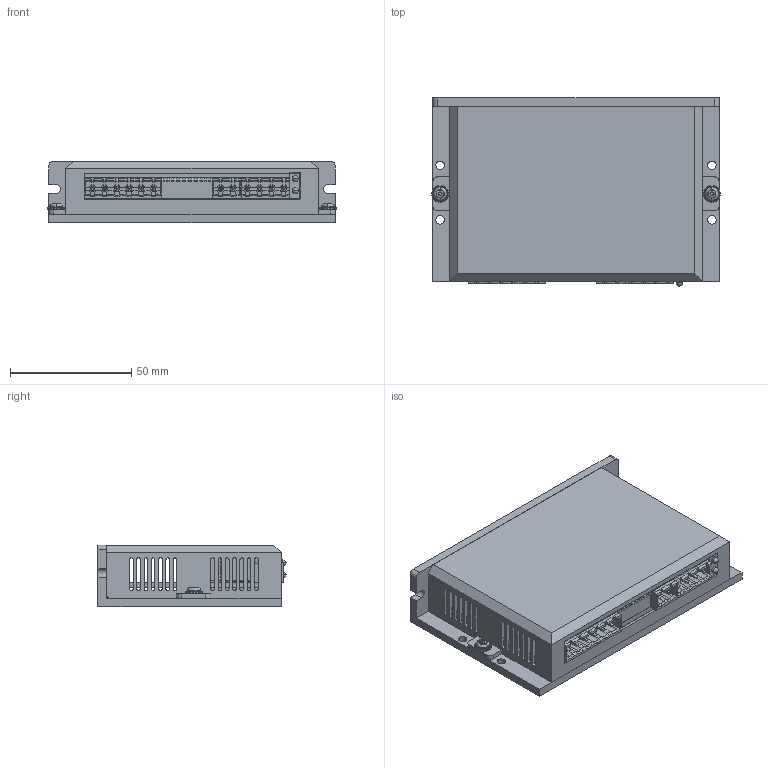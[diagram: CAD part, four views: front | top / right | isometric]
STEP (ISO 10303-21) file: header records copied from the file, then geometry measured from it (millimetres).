
FILE_DESCRIPTION (( 'STEP AP214' ), '1' );
FILE_NAME ('DM542E_3D.STEP', '2019-08-07T06:17:21', ( 'hwtest' ), ( 'Microsoft' ), 'SwSTEP 2.0', 'SolidWorks 2014', '' );
FILE_SCHEMA (( 'AUTOMOTIVE_DESIGN' ));
Length unit declared in the file: millimetre
Products named in the file (1): DM542E_3D
Bounding box: 119 x 77.5 x 25.5 mm (x, y, z)
Volume: 78388 mm3; surface area: 69405.4 mm2
Topology: 10 solids, 10 shells, 1394 faces, 3842 edges, 2492 vertices
Faces by surface type: plane 1045, cylinder 287, cone 38, bspline 24
Entity records: 67174 total; most frequent: CARTESIAN_POINT 16574, ORIENTED_EDGE 7676, DIRECTION 6716, EDGE_CURVE 3838, VECTOR 3020, LINE 3020, VERTEX_POINT 2492, AXIS2_PLACEMENT_3D 1848
